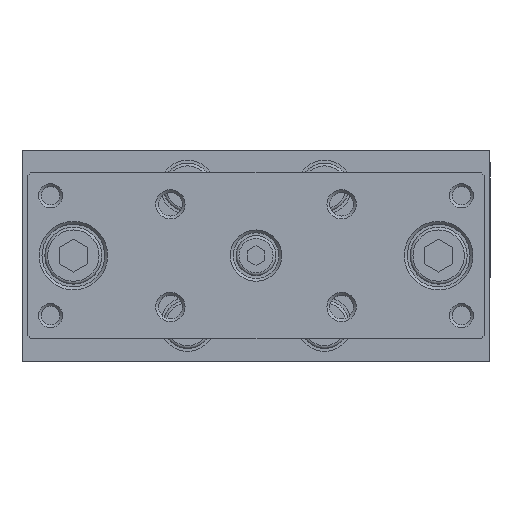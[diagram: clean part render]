
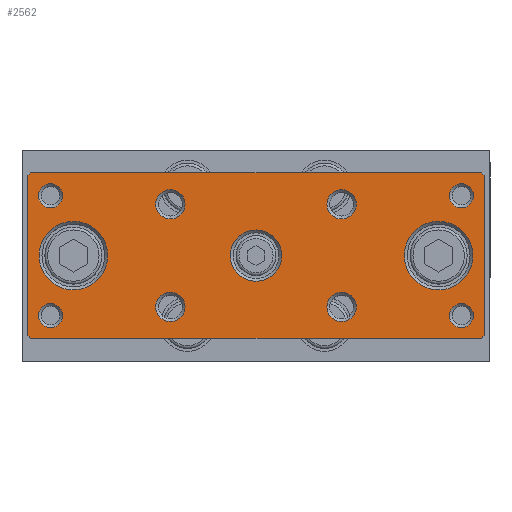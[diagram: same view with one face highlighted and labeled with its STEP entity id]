
A CAD part, top view. The second image highlights one B-rep face of the part: STEP entity #2562.
In plain terms, the highlighted planar face has unit normal (0, 0, 1).
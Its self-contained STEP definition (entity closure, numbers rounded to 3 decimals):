
#2366=CARTESIAN_POINT('',(-12.193,-7.317,114.5));
#2367=VERTEX_POINT('',#2366);
#2368=CARTESIAN_POINT('',(-14.76,-7.317,114.5));
#2369=DIRECTION('',(0.0,0.0,1.0));
#2370=DIRECTION('',(-1.0,0.0,0.0));
#2371=AXIS2_PLACEMENT_3D('',#2368,#2369,#2370);
#2372=CIRCLE('',#2371,2.567);
#2373=EDGE_CURVE('',#2367,#2367,#2372,.T.);
#2378=CARTESIAN_POINT('',(-39.76,1.683,114.5));
#2379=DIRECTION('',(0.0,0.0,1.0));
#2380=DIRECTION('',(1.0,0.0,0.0));
#2381=AXIS2_PLACEMENT_3D('',#2378,#2379,#2380);
#2382=PLANE('',#2381);
#2383=CARTESIAN_POINT('',(-39.76,15.683,114.5));
#2384=VERTEX_POINT('',#2383);
#2385=CARTESIAN_POINT('',(-39.26,16.183,114.5));
#2386=VERTEX_POINT('',#2385);
#2387=CARTESIAN_POINT('',(-39.76,15.683,114.5));
#2388=DIRECTION('',(0.707,0.707,0.0));
#2389=VECTOR('',#2388,0.707);
#2390=LINE('',#2387,#2389);
#2391=EDGE_CURVE('',#2384,#2386,#2390,.T.);
#2392=ORIENTED_EDGE('',*,*,#2391,.F.);
#2393=CARTESIAN_POINT('',(-39.76,-12.317,114.5));
#2394=VERTEX_POINT('',#2393);
#2395=CARTESIAN_POINT('',(-39.76,15.683,114.5));
#2396=DIRECTION('',(0.0,-1.0,0.0));
#2397=VECTOR('',#2396,28.);
#2398=LINE('',#2395,#2397);
#2399=EDGE_CURVE('',#2384,#2394,#2398,.T.);
#2400=ORIENTED_EDGE('',*,*,#2399,.T.);
#2401=CARTESIAN_POINT('',(-39.26,-12.817,114.5));
#2402=VERTEX_POINT('',#2401);
#2403=CARTESIAN_POINT('',(-39.26,-12.817,114.5));
#2404=DIRECTION('',(-0.707,0.707,0.0));
#2405=VECTOR('',#2404,0.707);
#2406=LINE('',#2403,#2405);
#2407=EDGE_CURVE('',#2402,#2394,#2406,.T.);
#2408=ORIENTED_EDGE('',*,*,#2407,.F.);
#2409=CARTESIAN_POINT('',(39.74,-12.817,114.5));
#2410=VERTEX_POINT('',#2409);
#2411=CARTESIAN_POINT('',(-39.26,-12.817,114.5));
#2412=DIRECTION('',(1.0,0.0,0.0));
#2413=VECTOR('',#2412,79.);
#2414=LINE('',#2411,#2413);
#2415=EDGE_CURVE('',#2402,#2410,#2414,.T.);
#2416=ORIENTED_EDGE('',*,*,#2415,.T.);
#2417=CARTESIAN_POINT('',(40.24,-12.317,114.5));
#2418=VERTEX_POINT('',#2417);
#2419=CARTESIAN_POINT('',(40.24,-12.317,114.5));
#2420=DIRECTION('',(-0.707,-0.707,0.0));
#2421=VECTOR('',#2420,0.707);
#2422=LINE('',#2419,#2421);
#2423=EDGE_CURVE('',#2418,#2410,#2422,.T.);
#2424=ORIENTED_EDGE('',*,*,#2423,.F.);
#2425=CARTESIAN_POINT('',(40.24,15.683,114.5));
#2426=VERTEX_POINT('',#2425);
#2427=CARTESIAN_POINT('',(40.24,-12.317,114.5));
#2428=DIRECTION('',(0.0,1.0,0.0));
#2429=VECTOR('',#2428,28.);
#2430=LINE('',#2427,#2429);
#2431=EDGE_CURVE('',#2418,#2426,#2430,.T.);
#2432=ORIENTED_EDGE('',*,*,#2431,.T.);
#2433=CARTESIAN_POINT('',(39.74,16.183,114.5));
#2434=VERTEX_POINT('',#2433);
#2435=CARTESIAN_POINT('',(39.74,16.183,114.5));
#2436=DIRECTION('',(0.707,-0.707,0.0));
#2437=VECTOR('',#2436,0.707);
#2438=LINE('',#2435,#2437);
#2439=EDGE_CURVE('',#2434,#2426,#2438,.T.);
#2440=ORIENTED_EDGE('',*,*,#2439,.F.);
#2441=CARTESIAN_POINT('',(39.74,16.183,114.5));
#2442=DIRECTION('',(-1.0,0.0,0.0));
#2443=VECTOR('',#2442,79.0);
#2444=LINE('',#2441,#2443);
#2445=EDGE_CURVE('',#2434,#2386,#2444,.T.);
#2446=ORIENTED_EDGE('',*,*,#2445,.T.);
#2447=EDGE_LOOP('',(#2392,#2400,#2408,#2416,#2424,#2432,#2440,#2446));
#2448=FACE_OUTER_BOUND('',#2447,.T.);
#2449=CARTESIAN_POINT('',(17.807,10.683,114.5));
#2450=VERTEX_POINT('',#2449);
#2451=CARTESIAN_POINT('',(15.24,10.683,114.5));
#2452=DIRECTION('',(0.0,0.0,1.0));
#2453=DIRECTION('',(-1.0,0.0,0.0));
#2454=AXIS2_PLACEMENT_3D('',#2451,#2452,#2453);
#2455=CIRCLE('',#2454,2.567);
#2456=EDGE_CURVE('',#2450,#2450,#2455,.T.);
#2457=ORIENTED_EDGE('',*,*,#2456,.F.);
#2458=EDGE_LOOP('',(#2457));
#2459=FACE_BOUND('',#2458,.T.);
#2460=CARTESIAN_POINT('',(-12.193,10.683,114.5));
#2461=VERTEX_POINT('',#2460);
#2462=CARTESIAN_POINT('',(-14.76,10.683,114.5));
#2463=DIRECTION('',(0.0,0.0,1.0));
#2464=DIRECTION('',(-1.0,0.0,0.0));
#2465=AXIS2_PLACEMENT_3D('',#2462,#2463,#2464);
#2466=CIRCLE('',#2465,2.567);
#2467=EDGE_CURVE('',#2461,#2461,#2466,.T.);
#2468=ORIENTED_EDGE('',*,*,#2467,.F.);
#2469=EDGE_LOOP('',(#2468));
#2470=FACE_BOUND('',#2469,.T.);
#2471=CARTESIAN_POINT('',(4.74,1.683,114.5));
#2472=VERTEX_POINT('',#2471);
#2473=CARTESIAN_POINT('',(0.24,1.683,114.5));
#2474=DIRECTION('',(0.0,0.0,1.0));
#2475=DIRECTION('',(-1.0,0.0,0.0));
#2476=AXIS2_PLACEMENT_3D('',#2473,#2474,#2475);
#2477=CIRCLE('',#2476,4.5);
#2478=EDGE_CURVE('',#2472,#2472,#2477,.T.);
#2479=ORIENTED_EDGE('',*,*,#2478,.F.);
#2480=EDGE_LOOP('',(#2479));
#2481=FACE_BOUND('',#2480,.T.);
#2482=CARTESIAN_POINT('',(-25.76,1.683,114.5));
#2483=VERTEX_POINT('',#2482);
#2484=CARTESIAN_POINT('',(-31.76,1.683,114.5));
#2485=DIRECTION('',(0.0,0.0,1.0));
#2486=DIRECTION('',(-1.0,0.0,0.0));
#2487=AXIS2_PLACEMENT_3D('',#2484,#2485,#2486);
#2488=CIRCLE('',#2487,6.);
#2489=EDGE_CURVE('',#2483,#2483,#2488,.T.);
#2490=ORIENTED_EDGE('',*,*,#2489,.F.);
#2491=EDGE_LOOP('',(#2490));
#2492=FACE_BOUND('',#2491,.T.);
#2493=CARTESIAN_POINT('',(38.24,1.683,114.5));
#2494=VERTEX_POINT('',#2493);
#2495=CARTESIAN_POINT('',(32.24,1.683,114.5));
#2496=DIRECTION('',(0.0,0.0,1.0));
#2497=DIRECTION('',(-1.0,0.0,0.0));
#2498=AXIS2_PLACEMENT_3D('',#2495,#2496,#2497);
#2499=CIRCLE('',#2498,6.);
#2500=EDGE_CURVE('',#2494,#2494,#2499,.T.);
#2501=ORIENTED_EDGE('',*,*,#2500,.F.);
#2502=EDGE_LOOP('',(#2501));
#2503=FACE_BOUND('',#2502,.T.);
#2504=CARTESIAN_POINT('',(38.361,-8.817,114.5));
#2505=VERTEX_POINT('',#2504);
#2506=CARTESIAN_POINT('',(36.24,-8.817,114.5));
#2507=DIRECTION('',(0.0,0.0,1.0));
#2508=DIRECTION('',(-1.0,0.0,0.0));
#2509=AXIS2_PLACEMENT_3D('',#2506,#2507,#2508);
#2510=CIRCLE('',#2509,2.121);
#2511=EDGE_CURVE('',#2505,#2505,#2510,.T.);
#2512=ORIENTED_EDGE('',*,*,#2511,.F.);
#2513=EDGE_LOOP('',(#2512));
#2514=FACE_BOUND('',#2513,.T.);
#2515=CARTESIAN_POINT('',(38.361,12.183,114.5));
#2516=VERTEX_POINT('',#2515);
#2517=CARTESIAN_POINT('',(36.24,12.183,114.5));
#2518=DIRECTION('',(0.0,0.0,1.0));
#2519=DIRECTION('',(-1.0,0.0,0.0));
#2520=AXIS2_PLACEMENT_3D('',#2517,#2518,#2519);
#2521=CIRCLE('',#2520,2.121);
#2522=EDGE_CURVE('',#2516,#2516,#2521,.T.);
#2523=ORIENTED_EDGE('',*,*,#2522,.F.);
#2524=EDGE_LOOP('',(#2523));
#2525=FACE_BOUND('',#2524,.T.);
#2526=CARTESIAN_POINT('',(-33.639,-8.817,114.5));
#2527=VERTEX_POINT('',#2526);
#2528=CARTESIAN_POINT('',(-35.76,-8.817,114.5));
#2529=DIRECTION('',(0.0,0.0,1.0));
#2530=DIRECTION('',(-1.0,0.0,0.0));
#2531=AXIS2_PLACEMENT_3D('',#2528,#2529,#2530);
#2532=CIRCLE('',#2531,2.121);
#2533=EDGE_CURVE('',#2527,#2527,#2532,.T.);
#2534=ORIENTED_EDGE('',*,*,#2533,.F.);
#2535=EDGE_LOOP('',(#2534));
#2536=FACE_BOUND('',#2535,.T.);
#2537=CARTESIAN_POINT('',(-33.639,12.183,114.5));
#2538=VERTEX_POINT('',#2537);
#2539=CARTESIAN_POINT('',(-35.76,12.183,114.5));
#2540=DIRECTION('',(0.0,0.0,1.0));
#2541=DIRECTION('',(-1.0,0.0,0.0));
#2542=AXIS2_PLACEMENT_3D('',#2539,#2540,#2541);
#2543=CIRCLE('',#2542,2.121);
#2544=EDGE_CURVE('',#2538,#2538,#2543,.T.);
#2545=ORIENTED_EDGE('',*,*,#2544,.F.);
#2546=EDGE_LOOP('',(#2545));
#2547=FACE_BOUND('',#2546,.T.);
#2548=CARTESIAN_POINT('',(17.807,-7.317,114.5));
#2549=VERTEX_POINT('',#2548);
#2550=CARTESIAN_POINT('',(15.24,-7.317,114.5));
#2551=DIRECTION('',(0.0,0.0,1.0));
#2552=DIRECTION('',(-1.0,0.0,0.0));
#2553=AXIS2_PLACEMENT_3D('',#2550,#2551,#2552);
#2554=CIRCLE('',#2553,2.567);
#2555=EDGE_CURVE('',#2549,#2549,#2554,.T.);
#2556=ORIENTED_EDGE('',*,*,#2555,.F.);
#2557=EDGE_LOOP('',(#2556));
#2558=FACE_BOUND('',#2557,.T.);
#2559=ORIENTED_EDGE('',*,*,#2373,.F.);
#2560=EDGE_LOOP('',(#2559));
#2561=FACE_BOUND('',#2560,.T.);
#2562=ADVANCED_FACE('',(#2448,#2459,#2470,#2481,#2492,#2503,#2514,#2525,#2536,#2547,#2558,#2561),#2382,.T.);
